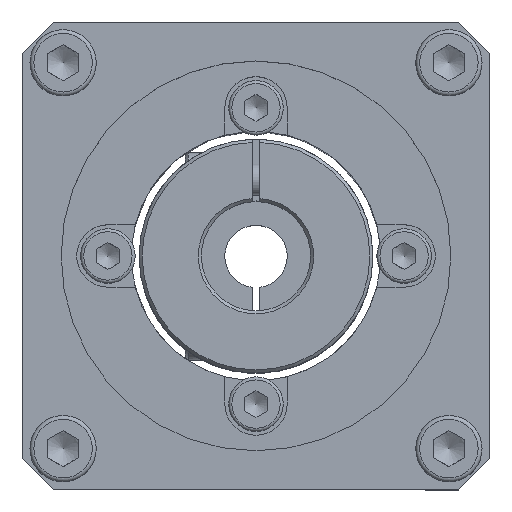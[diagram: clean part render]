
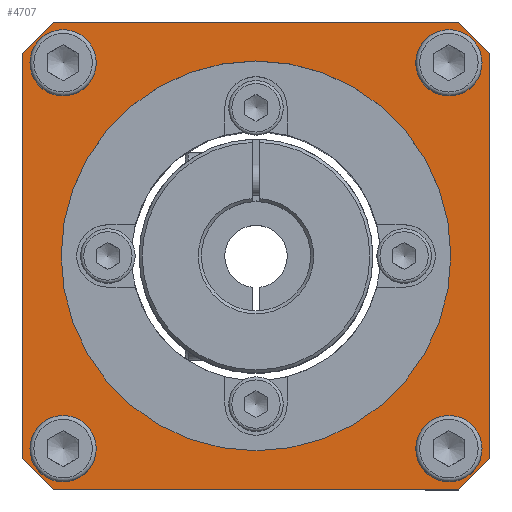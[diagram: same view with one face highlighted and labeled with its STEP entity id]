
A CAD part, top view. The second image highlights one B-rep face of the part: STEP entity #4707.
In plain terms, the highlighted planar face has unit normal (0, 0, 1).
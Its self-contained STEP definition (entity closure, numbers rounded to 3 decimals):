
#171=LINE('',#7523,#467);
#177=LINE('',#7534,#473);
#184=LINE('',#7551,#480);
#187=LINE('',#7556,#483);
#188=LINE('',#7559,#484);
#191=LINE('',#7564,#487);
#192=LINE('',#7567,#488);
#226=LINE('',#7723,#522);
#467=VECTOR('',#5864,5.657);
#473=VECTOR('',#5872,52.);
#480=VECTOR('',#5885,5.657);
#483=VECTOR('',#5890,52.);
#484=VECTOR('',#5893,5.657);
#487=VECTOR('',#5898,52.);
#488=VECTOR('',#5901,5.657);
#522=VECTOR('',#6075,52.);
#779=PLANE('',#5133);
#1032=FACE_BOUND('',#1612,.T.);
#1033=FACE_BOUND('',#1613,.T.);
#1034=FACE_BOUND('',#1614,.T.);
#1035=FACE_BOUND('',#1615,.T.);
#1036=FACE_BOUND('',#1616,.T.);
#1253=FACE_OUTER_BOUND('',#1611,.T.);
#1611=EDGE_LOOP('',(#3720,#3721,#3722,#3723,#3724,#3725,#3726,#3727));
#1612=EDGE_LOOP('',(#3728));
#1613=EDGE_LOOP('',(#3729));
#1614=EDGE_LOOP('',(#3730));
#1615=EDGE_LOOP('',(#3731));
#1616=EDGE_LOOP('',(#3732));
#1936=CIRCLE('',#5074,2.067);
#1938=CIRCLE('',#5078,2.067);
#1940=CIRCLE('',#5082,2.067);
#1942=CIRCLE('',#5086,2.067);
#1964=CIRCLE('',#5130,25.);
#2244=VERTEX_POINT('',#7521);
#2245=VERTEX_POINT('',#7522);
#2249=VERTEX_POINT('',#7532);
#2256=VERTEX_POINT('',#7550);
#2257=VERTEX_POINT('',#7554);
#2258=VERTEX_POINT('',#7558);
#2259=VERTEX_POINT('',#7562);
#2260=VERTEX_POINT('',#7566);
#2268=VERTEX_POINT('',#7587);
#2270=VERTEX_POINT('',#7593);
#2272=VERTEX_POINT('',#7599);
#2274=VERTEX_POINT('',#7605);
#2312=VERTEX_POINT('',#7719);
#2748=EDGE_CURVE('',#2244,#2245,#171,.T.);
#2754=EDGE_CURVE('',#2249,#2244,#177,.T.);
#2762=EDGE_CURVE('',#2256,#2249,#184,.T.);
#2765=EDGE_CURVE('',#2257,#2256,#187,.T.);
#2766=EDGE_CURVE('',#2258,#2257,#188,.T.);
#2769=EDGE_CURVE('',#2259,#2258,#191,.T.);
#2770=EDGE_CURVE('',#2260,#2259,#192,.T.);
#2779=EDGE_CURVE('',#2268,#2268,#1936,.T.);
#2781=EDGE_CURVE('',#2270,#2270,#1938,.T.);
#2783=EDGE_CURVE('',#2272,#2272,#1940,.T.);
#2785=EDGE_CURVE('',#2274,#2274,#1942,.T.);
#2839=EDGE_CURVE('',#2312,#2312,#1964,.T.);
#2840=EDGE_CURVE('',#2245,#2260,#226,.T.);
#3720=ORIENTED_EDGE('',*,*,#2748,.F.);
#3721=ORIENTED_EDGE('',*,*,#2754,.F.);
#3722=ORIENTED_EDGE('',*,*,#2762,.F.);
#3723=ORIENTED_EDGE('',*,*,#2765,.F.);
#3724=ORIENTED_EDGE('',*,*,#2766,.F.);
#3725=ORIENTED_EDGE('',*,*,#2769,.F.);
#3726=ORIENTED_EDGE('',*,*,#2770,.F.);
#3727=ORIENTED_EDGE('',*,*,#2840,.F.);
#3728=ORIENTED_EDGE('',*,*,#2779,.T.);
#3729=ORIENTED_EDGE('',*,*,#2781,.T.);
#3730=ORIENTED_EDGE('',*,*,#2783,.T.);
#3731=ORIENTED_EDGE('',*,*,#2785,.T.);
#3732=ORIENTED_EDGE('',*,*,#2839,.T.);
#4707=ADVANCED_FACE('',(#1253,#1032,#1033,#1034,#1035,#1036),#779,.T.);
#5074=AXIS2_PLACEMENT_3D('',#7588,#5925,#5926);
#5078=AXIS2_PLACEMENT_3D('',#7594,#5933,#5934);
#5082=AXIS2_PLACEMENT_3D('',#7600,#5941,#5942);
#5086=AXIS2_PLACEMENT_3D('',#7606,#5949,#5950);
#5130=AXIS2_PLACEMENT_3D('',#7720,#6069,#6070);
#5133=AXIS2_PLACEMENT_3D('',#7724,#6076,#6077);
#5864=DIRECTION('',(0.707,-0.707,0.));
#5872=DIRECTION('',(1.,0.,0.));
#5885=DIRECTION('',(0.707,0.707,0.));
#5890=DIRECTION('',(0.,1.,0.));
#5893=DIRECTION('',(-0.707,0.707,0.));
#5898=DIRECTION('',(-1.,0.,0.));
#5901=DIRECTION('',(-0.707,-0.707,0.));
#5925=DIRECTION('center_axis',(0.,0.,-1.));
#5926=DIRECTION('ref_axis',(0.,-1.,0.));
#5933=DIRECTION('center_axis',(0.,0.,-1.));
#5934=DIRECTION('ref_axis',(-1.,0.,0.));
#5941=DIRECTION('center_axis',(0.,0.,-1.));
#5942=DIRECTION('ref_axis',(0.,1.,0.));
#5949=DIRECTION('center_axis',(0.,0.,-1.));
#5950=DIRECTION('ref_axis',(1.,0.,0.));
#6069=DIRECTION('center_axis',(0.,0.,-1.));
#6070=DIRECTION('ref_axis',(1.,0.,0.));
#6075=DIRECTION('',(0.,-1.,0.));
#6076=DIRECTION('center_axis',(0.,0.,1.));
#6077=DIRECTION('ref_axis',(1.,0.,0.));
#7521=CARTESIAN_POINT('',(26.,30.,21.4));
#7522=CARTESIAN_POINT('',(30.,26.,21.4));
#7523=CARTESIAN_POINT('',(28.,28.,21.4));
#7532=CARTESIAN_POINT('',(-26.,30.,21.4));
#7534=CARTESIAN_POINT('',(-30.,30.,21.4));
#7550=CARTESIAN_POINT('',(-30.,26.,21.4));
#7551=CARTESIAN_POINT('',(-28.,28.,21.4));
#7554=CARTESIAN_POINT('',(-30.,-26.,21.4));
#7556=CARTESIAN_POINT('',(-30.,-30.,21.4));
#7558=CARTESIAN_POINT('',(-26.,-30.,21.4));
#7559=CARTESIAN_POINT('',(-28.,-28.,21.4));
#7562=CARTESIAN_POINT('',(26.,-30.,21.4));
#7564=CARTESIAN_POINT('',(30.,-30.,21.4));
#7566=CARTESIAN_POINT('',(30.,-26.,21.4));
#7567=CARTESIAN_POINT('',(28.,-28.,21.4));
#7587=CARTESIAN_POINT('',(24.749,-26.816,21.4));
#7588=CARTESIAN_POINT('Origin',(24.749,-24.749,21.4));
#7593=CARTESIAN_POINT('',(-26.816,-24.749,21.4));
#7594=CARTESIAN_POINT('Origin',(-24.749,-24.749,21.4));
#7599=CARTESIAN_POINT('',(-24.749,26.816,21.4));
#7600=CARTESIAN_POINT('Origin',(-24.749,24.749,21.4));
#7605=CARTESIAN_POINT('',(26.816,24.749,21.4));
#7606=CARTESIAN_POINT('Origin',(24.749,24.749,21.4));
#7719=CARTESIAN_POINT('',(25.,0.,21.4));
#7720=CARTESIAN_POINT('Origin',(0.,0.,21.4));
#7723=CARTESIAN_POINT('',(30.,30.,21.4));
#7724=CARTESIAN_POINT('Origin',(0.,0.,
21.4));
